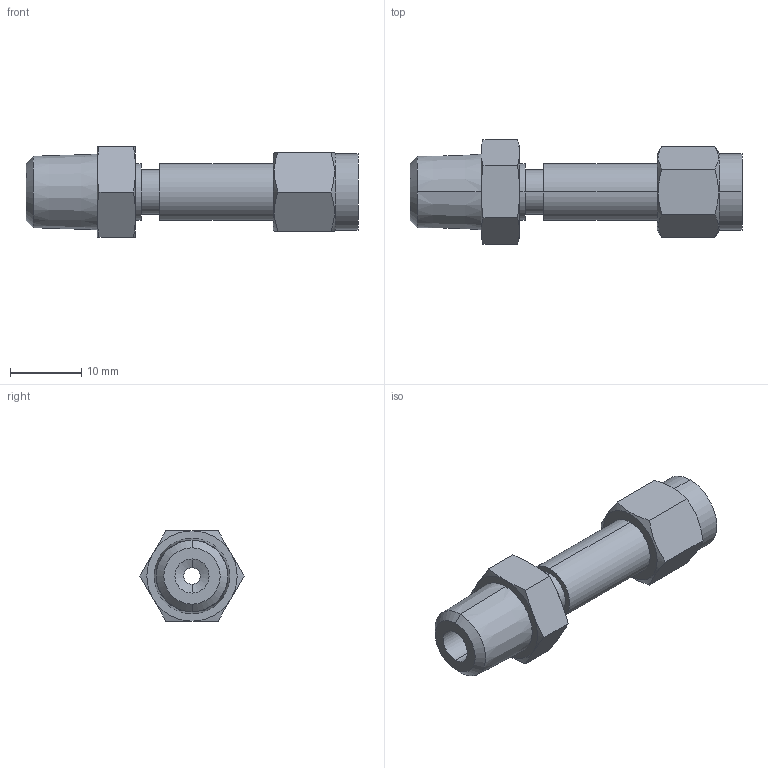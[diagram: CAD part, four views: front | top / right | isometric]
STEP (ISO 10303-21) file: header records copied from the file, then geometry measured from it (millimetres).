
FILE_DESCRIPTION (( 'STEP AP203' ), '1' );
FILE_NAME ('DSC02-02 SS.STEP', '2009-09-08T09:00:36', ( ' ' ), ( '' ), 'SwSTEP 2.0', 'SolidWorks 2008', '' );
FILE_SCHEMA (( 'CONFIG_CONTROL_DESIGN' ));
Length unit declared in the file: millimetre
Products named in the file (1): DSC02-02 SS
Bounding box: 46.7 x 14.66 x 12.7 mm (x, y, z)
Volume: 3278 mm3; surface area: 2309 mm2
Topology: 1 solids, 1 shells, 56 faces, 124 edges, 76 vertices
Faces by surface type: cone 22, plane 20, cylinder 14
Entity records: 1729 total; most frequent: CARTESIAN_POINT 449, ORIENTED_EDGE 248, DIRECTION 246, EDGE_CURVE 124, AXIS2_PLACEMENT_3D 105, VERTEX_POINT 76, EDGE_LOOP 64, ADVANCED_FACE 56
